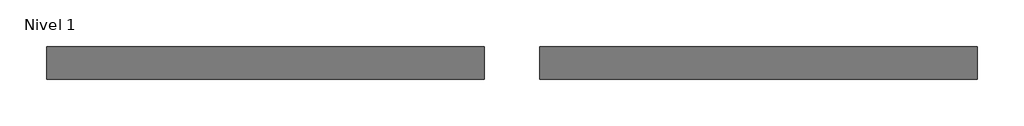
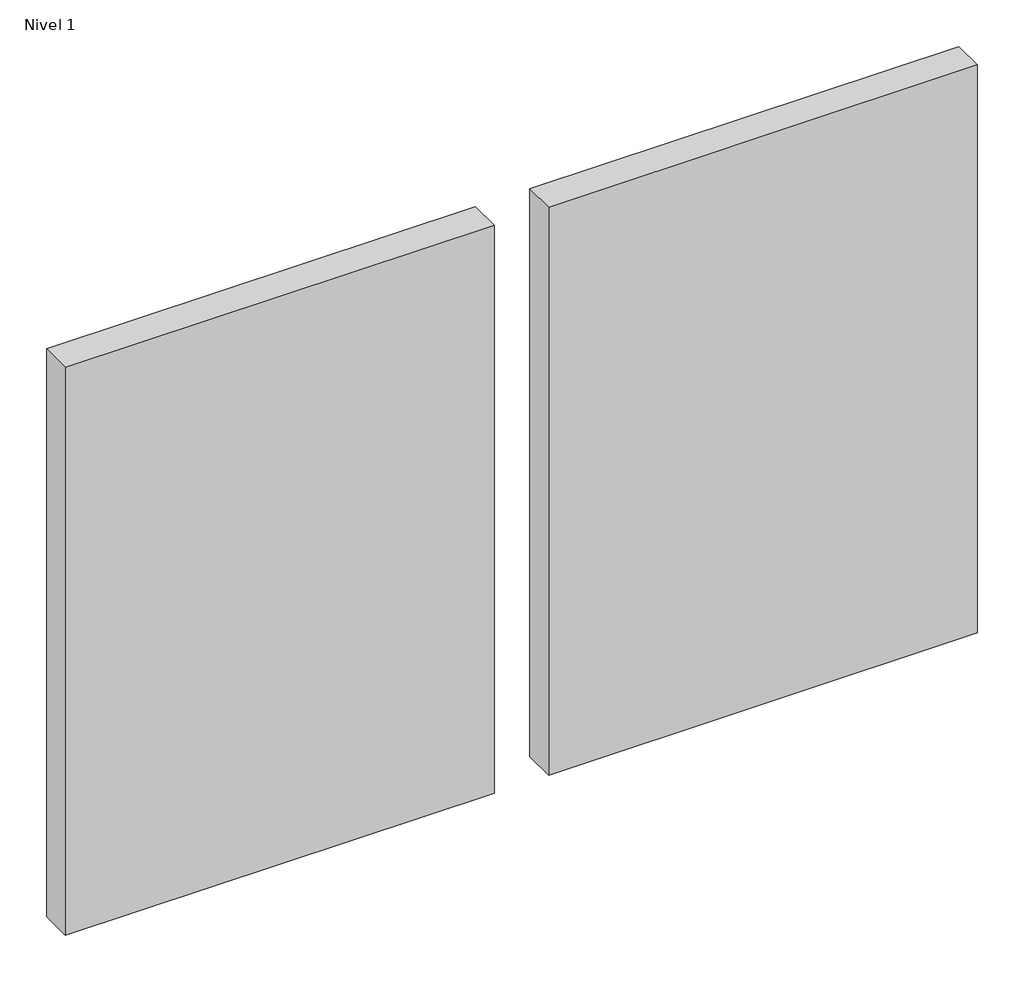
# One storey, incomplete: 2 proxies.
"""IFC4 building model written with IfcOpenShell, lengths in millimetres."""

from ifc_helpers import new_model, si_unit, origin, place, context, project, spatial, transform, mapped, element, save
from components import proxy_1_3dm_0daf05c3, proxy_2_3dm_41c21e3c

model = new_model("IFC4")

# Units and contexts
model_context = context("Model", 3, world=origin())
ifc_project = project(units=[si_unit("LENGTHUNIT", "METRE", prefix="MILLI")], contexts=[model_context])

# Site, building, storey
site = spatial("IfcSite", under=ifc_project)
building = spatial("IfcBuilding", under=site)
storey = spatial("IfcBuildingStorey", under=building, Name="Nivel 1", Elevation=0.0)

# Proxies
placement = place(None, origin())
proxy_1_3dm_shape = proxy_1_3dm_0daf05c3(model_context)
element("IfcBuildingElementProxy", 1, Name="1.3dm", ObjectType="1.3dm", at=placement, inside=storey, context=model_context, shape_type="MappedRepresentation", body=[
    mapped(proxy_1_3dm_shape, transform((0.0, 0.0, 0.0), x_axis=(1.0, 0.0, 0.0), y_axis=(0.0, 1.0, 0.0), z_axis=(0.0, 0.0, 1.0))),
])
proxy_2_3dm_shape = proxy_2_3dm_41c21e3c(model_context)
element("IfcBuildingElementProxy", 2, Name="2.3dm", ObjectType="2.3dm", at=placement, inside=storey, context=model_context, shape_type="MappedRepresentation", body=[
    mapped(proxy_2_3dm_shape, transform((0.0, 0.0, 0.0), x_axis=(1.0, 0.0, 0.0), y_axis=(0.0, 1.0, 0.0), z_axis=(0.0, 0.0, 1.0))),
])

save(model, "model.ifc")
